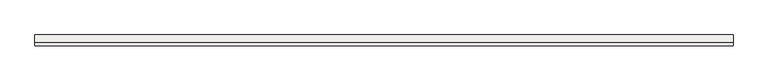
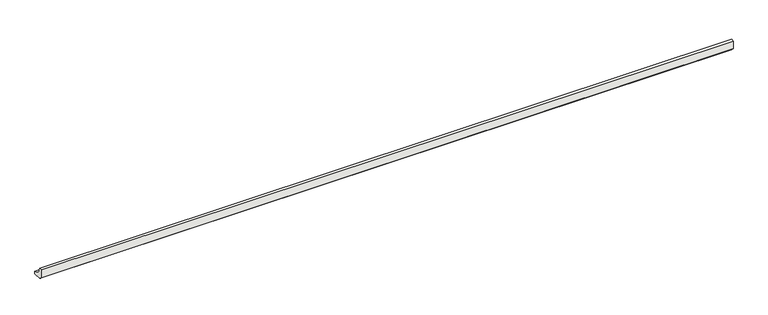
"""IFC4 building model written with IfcOpenShell, lengths in millimetres: slab geometry, ROSA GRES_188 : Pieza 188_Serena_Ocra_Anti-Slip."""

from ifc_helpers import new_model, si_unit, point, frame, frame_2d, origin, place, context, project, spatial, polyline, circle_curve, trimmed, segment, composite_curve, outline, extrude, source, transform, mapped, element, save


def slab_a88a178b(model_context):
    return source(origin(), model_context, "Body", "SweptSolid", [
        extrude(outline(composite_curve([segment(polyline([(0.0, 8.7114978), (0.0, 40.0), (9.9734114, 40.0)]), True, "CONTINUOUS"), segment(trimmed(circle_curve(frame_2d((39.9955547, 39.9955547)), 30.0221435), [point((9.9734114, 40.0))], [point((40.0, 9.9734114))], True, "CARTESIAN"), True, "CONTINUOUS"), segment(polyline([(40.0, 9.9734114), (40.0, 0.0), (8.7114978, 0.0), (0.0, 8.7114978)]), True, "CONTINUOUS")], self_intersect=False)), frame((0.0, 0.0, 0.0), z_axis=(1.0, 0.0, 0.0), x_axis=(0.0, 1.0, 0.0)), (0.0, 0.0, 1.0), 2598.6709971),
    ])


if __name__ == "__main__":
    model = new_model("IFC4")
    model_context = context("Model", 3, world=origin())
    ifc_project = project(units=[si_unit("LENGTHUNIT", "METRE", prefix="MILLI")], contexts=[model_context])
    site = spatial("IfcSite", under=ifc_project)
    building = spatial("IfcBuilding", under=site)
    placement = place(None, origin())
    slab_shape = slab_a88a178b(model_context)
    element("IfcSlab", 1, ObjectType="ROSA GRES_188 : Pieza 188_Serena_Ocra_Anti-Slip", at=placement, inside=building, context=model_context, shape_type="MappedRepresentation", body=[
        mapped(slab_shape, transform((0.0, 0.0, 0.0), x_axis=(1.0, 0.0, 0.0), y_axis=(0.0, 1.0, 0.0), z_axis=(0.0, 0.0, 1.0))),
    ])
    save(model, "model.ifc")
